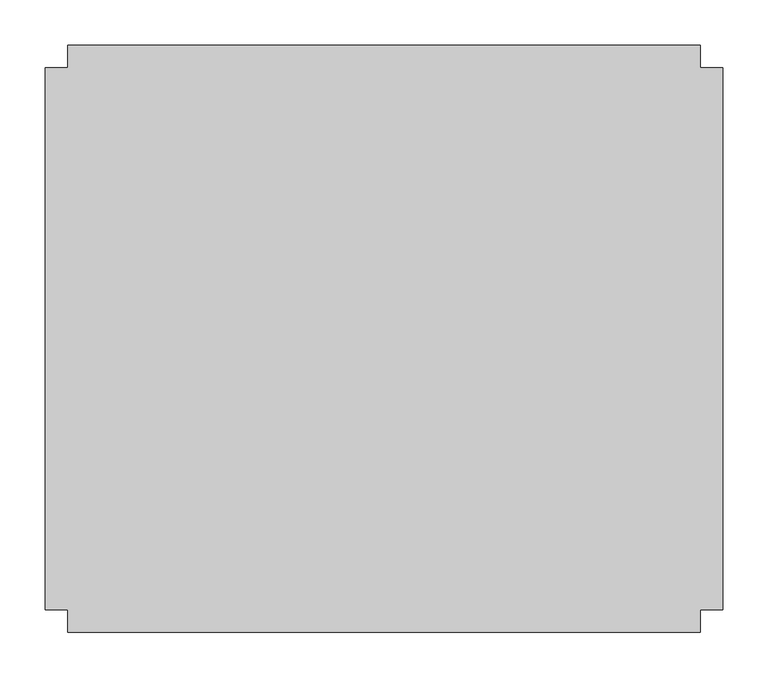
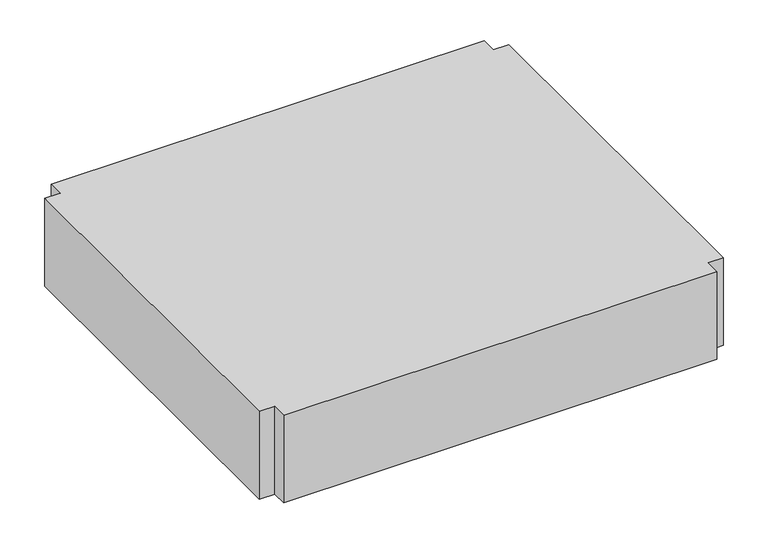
"""IFC4 building model written with IfcOpenShell, lengths in millimetres: duct fitting geometry, M_Cruz rectangular : Estándar."""

from ifc_helpers import new_model, si_unit, frame, origin, place, context, project, spatial, polyline, outline, extrude, source, transform, mapped, element, save


def duct_fitting_ca624636(model_context):
    return source(origin(), model_context, "Body", "SweptSolid", [
        extrude(outline(polyline([(350.0, -325.0), (-350.0, -325.0), (-350.0, -300.0), (-375.0, -300.0), (-375.0, 300.0), (-350.0, 300.0), (-350.0, 325.0), (350.0, 325.0), (350.0, 300.0), (375.0, 300.0), (375.0, -300.0), (350.0, -300.0), (350.0, -325.0)])), frame((0.0, 0.0, -75.0), z_axis=(0.0, 0.0, 1.0), x_axis=(1.0, 0.0, 0.0)), (0.0, 0.0, 1.0), 150.0),
    ])


if __name__ == "__main__":
    model = new_model("IFC4")
    model_context = context("Model", 3, world=origin())
    ifc_project = project(units=[si_unit("LENGTHUNIT", "METRE", prefix="MILLI")], contexts=[model_context])
    site = spatial("IfcSite", under=ifc_project)
    building = spatial("IfcBuilding", under=site)
    placement = place(None, origin())
    duct_fitting_shape = duct_fitting_ca624636(model_context)
    element("IfcDuctFitting", 1, ObjectType="M_Cruz rectangular : Estándar", at=placement, inside=building, context=model_context, shape_type="MappedRepresentation", body=[
        mapped(duct_fitting_shape, transform((0.0, 0.0, 0.0), x_axis=(1.0, 0.0, 0.0), y_axis=(0.0, 1.0, 0.0), z_axis=(0.0, 0.0, 1.0))),
    ])
    save(model, "model.ifc")
